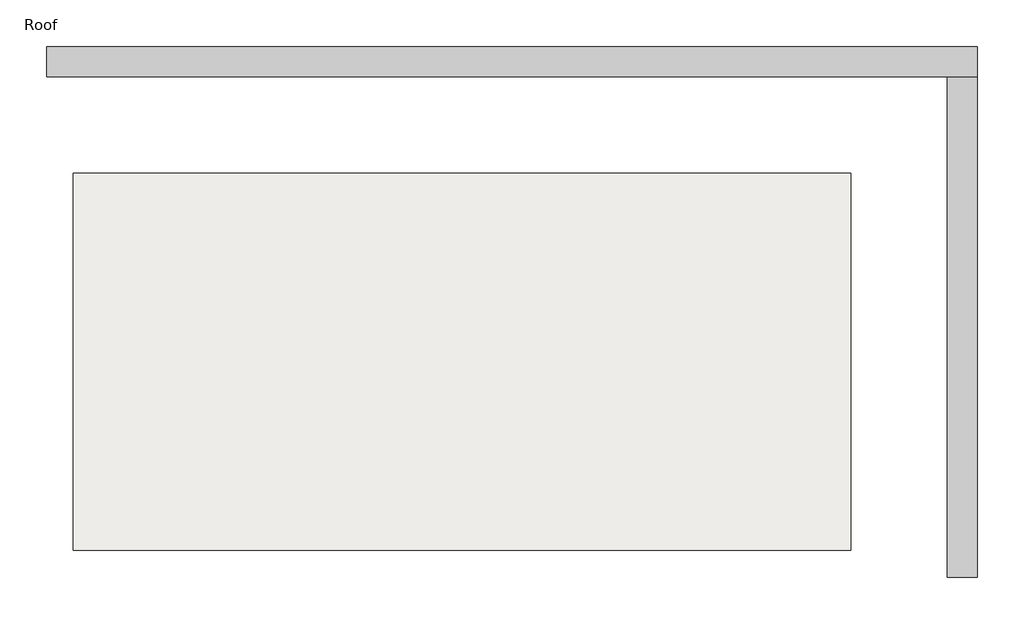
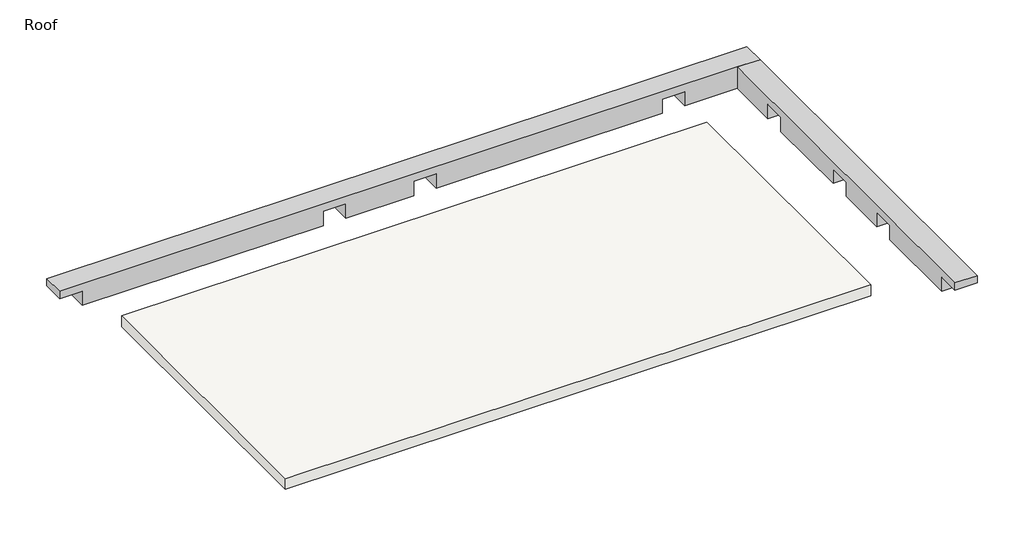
# One storey: 2 beams, 1 roof.
"""IFC4 building model written with IfcOpenShell, lengths in millimetres."""

import ifcopenshell
import ifcopenshell.guid

model = None  # the IFC model being written
_history = None  # IfcOwnerHistory: only IFC2X3 demands one
_inside = {}  # id of a spatial element -> (the spatial element, [elements in it])
_under = {}  # id of a project, library or spatial element -> (it, [spatial elements below it])
_declared = {}  # id of a project -> (the project, [libraries it declares])
_typed = {}  # id of a type object -> (the type object, [elements of that type])
_made_of = {}  # id of a material, layer set ... -> (it, [elements and type objects made of it])


def new_model(schema):
    """Start an empty IFC model of exactly this schema.

    Asked for "IFC4X3", IfcOpenShell would pick the latest addendum, in which some entities
    have other attributes; the version numbers below select the first issue.
    IFC2X3 requires an IfcOwnerHistory on every rooted entity: one is made here for all.
    """
    global model, _history
    if schema == "IFC4X3":
        model = ifcopenshell.file(schema_version=(4, 3, 0, 0))
    else:
        model = ifcopenshell.file(schema=schema)
    _inside.clear()
    _under.clear()
    _declared.clear()
    _typed.clear()
    _made_of.clear()
    _history = None
    if model.schema == "IFC2X3":
        org = make("IfcOrganization", Name="unknown")
        user = make(
            "IfcPersonAndOrganization",
            ThePerson=make("IfcPerson", FamilyName="unknown"),
            TheOrganization=org,
        )
        app = make(
            "IfcApplication",
            ApplicationDeveloper=org,
            Version="unknown",
            ApplicationFullName="unknown",
            ApplicationIdentifier="unknown",
        )
        _history = make(
            "IfcOwnerHistory",
            OwningUser=user,
            OwningApplication=app,
            ChangeAction="ADDED",
            CreationDate=0,
        )
    return model


def make(cls, **values):
    """One entity of the class cls with the attributes given. An attribute that is None is left unset."""
    return model.create_entity(
        cls, **{name: value for name, value in values.items() if value is not None}
    )


def rooted(cls, **values):
    """An entity with a GlobalId (a new one), such as an element, a storey or a relation."""
    return make(cls, GlobalId=ifcopenshell.guid.new(), OwnerHistory=_history, **values)


def si_unit(unit_type, name, prefix=None):
    """IfcSIUnit, for example si_unit("LENGTHUNIT", "METRE", prefix="MILLI")."""
    return make("IfcSIUnit", UnitType=unit_type, Prefix=prefix, Name=name)


def assignment(units):
    """IfcUnitAssignment: the units of a project."""
    return None if units is None else make("IfcUnitAssignment", Units=units)


def point(xyz):
    """IfcCartesianPoint."""
    return None if xyz is None else make("IfcCartesianPoint", Coordinates=xyz)


def direction(xyz):
    """IfcDirection."""
    return None if xyz is None else make("IfcDirection", DirectionRatios=xyz)


def frame(location, z_axis=None, x_axis=None):
    """IfcAxis2Placement3D, a coordinate frame: its origin and axes. An axis left out is left unset."""
    return make(
        "IfcAxis2Placement3D",
        Location=point(location),
        Axis=direction(z_axis),
        RefDirection=direction(x_axis),
    )


def origin():
    """The frame at (0, 0, 0) with its axes left unset."""
    return frame((0.0, 0.0, 0.0))


def place(relative_to, where):
    """IfcLocalPlacement: puts the frame where relative to a parent placement (None: the world)."""
    return make(
        "IfcLocalPlacement", PlacementRelTo=relative_to, RelativePlacement=where
    )


def context(
    kind, dimensions, precision=None, world=None, true_north=None, identifier=None
):
    """IfcGeometricRepresentationContext, for example the 3D "Model" context."""
    return make(
        "IfcGeometricRepresentationContext",
        ContextIdentifier=identifier,
        ContextType=kind,
        CoordinateSpaceDimension=dimensions,
        Precision=precision,
        WorldCoordinateSystem=world,
        TrueNorth=true_north,
    )


def project(units=None, contexts=None):
    """IfcProject with its units and contexts."""
    return rooted(
        "IfcProject",
        Name="project",
        RepresentationContexts=contexts,
        UnitsInContext=assignment(units),
    )


def spatial(cls, under=None, at=None, **own):
    """A site, building, storey or space (cls), placed at a placement, below another one or the project."""
    s = rooted(cls, ObjectPlacement=at, **own)
    if under is not None:
        _under.setdefault(under.id(), (under, []))[1].append(s)
    return s


def polyline(points):
    """IfcPolyline through the points."""
    return make("IfcPolyline", Points=[point(p) for p in points])


def outline(outer, holes=None, kind="AREA"):
    """IfcArbitraryClosedProfileDef: a profile drawn as a closed curve; with holes, ...WithVoids."""
    if holes is None:
        return make("IfcArbitraryClosedProfileDef", ProfileType=kind, OuterCurve=outer)
    return make(
        "IfcArbitraryProfileDefWithVoids",
        ProfileType=kind,
        OuterCurve=outer,
        InnerCurves=holes,
    )


def extrude(swept, where, along, depth):
    """IfcExtrudedAreaSolid: the profile swept, set in the frame where, extruded along a direction by depth."""
    return make(
        "IfcExtrudedAreaSolid",
        SweptArea=swept,
        Position=where,
        ExtrudedDirection=direction(along),
        Depth=depth,
    )


def faces_of(points, faces, orient=None, outer=None):
    """IfcFace entities. A face is a list of loops; a loop is a list of indices into points, from 0.

    orient and outer hold one flag for each loop. By default every Orientation is true, the
    first loop of a face is its IfcFaceOuterBound and the others are IfcFaceBound.
    """
    made = []
    for i, loops in enumerate(faces):
        bounds = []
        for j, loop in enumerate(loops):
            is_outer = j == 0 if outer is None else outer[i][j]
            bounds.append(
                make(
                    "IfcFaceOuterBound" if is_outer else "IfcFaceBound",
                    Bound=make("IfcPolyLoop", Polygon=[points[k] for k in loop]),
                    Orientation=True if orient is None else orient[i][j],
                )
            )
        made.append(make("IfcFace", Bounds=bounds))
    return made


def faceted_brep(points, faces, orient=None, outer=None, voids=None):
    """IfcFacetedBrep: a solid bounded by flat faces; with voids (closed shells), ...WithVoids."""
    shared = [point(p) for p in points]
    hull = make("IfcClosedShell", CfsFaces=faces_of(shared, faces, orient, outer))
    if voids is None:
        return make("IfcFacetedBrep", Outer=hull)
    return make(
        "IfcFacetedBrepWithVoids",
        Outer=hull,
        Voids=[
            make(cls, CfsFaces=faces_of(shared, fs, o, b)) for cls, fs, o, b in voids
        ],
    )


def shape(context_of_items, identifier, shape_type, items):
    """IfcShapeRepresentation: the items that make up one representation, for example the "Body"."""
    return make(
        "IfcShapeRepresentation",
        ContextOfItems=context_of_items,
        RepresentationIdentifier=identifier,
        RepresentationType=shape_type,
        Items=items,
    )


def made_of(thing, what):
    """Note that an element or type object is made of a material, layer set ...; save() writes the relation."""
    if what is not None:
        _made_of.setdefault(what.id(), (what, []))[1].append(thing)
    return thing


def element(
    cls,
    number,
    at=None,
    inside=None,
    cuts=None,
    type_object=None,
    material=None,
    context=None,
    identifier="Body",
    shape_type=None,
    held_by="IfcProductDefinitionShape",
    body=None,
    shapes=None,
    **own,
):
    """One element of the class cls, such as IfcWall. Its Tag is "e" and its number.

    at: its placement. inside: the storey or other place that contains it. cuts: it is an
    opening in that element (IfcRelVoidsElement). A single representation is given by context,
    identifier, shape_type and body (its items); several are given by shapes. held_by: the class
    of the entity that holds the representations. save() writes the other relations.
    """
    e = rooted(cls, Tag="e%d" % number, ObjectPlacement=at, **own)
    if body is not None:
        shapes = [shape(context, identifier, shape_type, body)]
    if shapes is not None:
        e.Representation = make(held_by, Representations=shapes)
    if inside is not None:
        _inside.setdefault(inside.id(), (inside, []))[1].append(e)
    if cuts is not None:
        rooted(
            "IfcRelVoidsElement", RelatingBuildingElement=cuts, RelatedOpeningElement=e
        )
    if type_object is not None:
        _typed.setdefault(type_object.id(), (type_object, []))[1].append(e)
    return made_of(e, material)


def aggregate(whole, parts):
    """IfcRelAggregates: a whole, such as a stair, and the parts it consists of."""
    return rooted("IfcRelAggregates", RelatingObject=whole, RelatedObjects=parts)


def save(model, path):
    """Write the relations noted so far, then the file.

    IfcRelAggregates (storeys below a building ...), IfcRelContainedInSpatialStructure (elements
    in a storey), IfcRelDefinesByType, IfcRelAssociatesMaterial and IfcRelDeclares: one each for
    every whole, place, type object, material and project.
    """
    for whole, parts in _under.values():
        aggregate(whole, parts)
    for where, things in _inside.values():
        rooted(
            "IfcRelContainedInSpatialStructure",
            RelatedElements=things,
            RelatingStructure=where,
        )
    for kind, things in _typed.values():
        rooted("IfcRelDefinesByType", RelatedObjects=things, RelatingType=kind)
    for what, things in _made_of.values():
        rooted("IfcRelAssociatesMaterial", RelatedObjects=things, RelatingMaterial=what)
    for by, libraries in _declared.values():
        rooted("IfcRelDeclares", RelatingContext=by, RelatedDefinitions=libraries)
    model.write(path)


model = new_model("IFC4")

# Units and contexts
model_context = context("Model", 3, world=origin())
ifc_project = project(units=[si_unit("LENGTHUNIT", "METRE", prefix="MILLI")], contexts=[model_context])

# Site, building, storey
site = spatial("IfcSite", under=ifc_project)
building = spatial("IfcBuilding", under=site)
storey = spatial("IfcBuildingStorey", under=building, Name="Roof", Elevation=12192.0)

# Beams
placement = place(None, origin())
element("IfcBeam", 1, ObjectType="Concrete-Rectangular Beam : 18 x 18", at=placement, inside=storey, context=model_context, shape_type="Brep", body=[
    faceted_brep([(-11622.0589563, 11741.6316867, 12192.0), (-11622.0589563, 12198.8316867, 12192.0), (-11622.0589563, 12198.8316867, 12039.6), (-11622.0589563, 11741.6316867, 12039.6), (2093.9410437, 11741.6316867, 12192.0), (2551.1410437, 11741.6316867, 12192.0), (2551.1410437, 12198.8316867, 12192.0), (-11164.8589563, 11741.6316867, 12039.6), (-11164.8589563, 11741.6316867, 11734.8), (-6288.0589563, 11741.6316867, 11734.8), (-6288.0589563, 11741.6316867, 12039.6), (-5830.8589563, 11741.6316867, 12039.6), (-5830.8589563, 11741.6316867, 11734.8), (-4459.2589563, 11741.6316867, 11734.8), (-4459.2589563, 11741.6316867, 12039.6), (-4002.0589563, 11741.6316867, 12039.6), (-4002.0589563, 11741.6316867, 11734.8), (569.9410437, 11741.6316867, 11734.8), (569.9410437, 11741.6316867, 12039.6), (1027.1410437, 11741.6316867, 12039.6), (1027.1410437, 11741.6316867, 11734.8), (2093.9410437, 11741.6316867, 11734.8), (2093.9410437, 11741.6316867, 12039.6), (2551.1410437, 11741.6316867, 12039.6), (1027.1410437, 12198.8316867, 11734.8), (2093.9410437, 12198.8316867, 11734.8), (2551.1410437, 12198.8316867, 12039.6), (2093.9410437, 12198.8316867, 12039.6), (1027.1410437, 12198.8316867, 12039.6), (569.9410437, 12198.8316867, 12039.6), (569.9410437, 12198.8316867, 11734.8), (-4002.0589563, 12198.8316867, 11734.8), (-4002.0589563, 12198.8316867, 12039.6), (-4459.2589563, 12198.8316867, 12039.6), (-4459.2589563, 12198.8316867, 11734.8), (-5830.8589563, 12198.8316867, 11734.8), (-5830.8589563, 12198.8316867, 12039.6), (-6288.0589563, 12198.8316867, 12039.6), (-6288.0589563, 12198.8316867, 11734.8), (-11164.8589563, 12198.8316867, 11734.8), (-11164.8589563, 12198.8316867, 12039.6)], [[[0, 1, 2, 3]], [[1, 0, 4, 5, 6]], [[5, 4, 0, 3, 7, 8, 9, 10, 11, 12, 13, 14, 15, 16, 17, 18, 19, 20, 21, 22, 23]], [[20, 24, 25, 21]], [[1, 6, 26, 27, 25, 24, 28, 29, 30, 31, 32, 33, 34, 35, 36, 37, 38, 39, 40, 2]], [[6, 5, 23, 26]], [[19, 28, 24, 20]], [[29, 18, 17, 30]], [[28, 19, 18, 29]], [[30, 17, 16, 31]], [[27, 22, 21, 25]], [[22, 27, 26, 23]], [[15, 32, 31, 16]], [[33, 14, 13, 34]], [[32, 15, 14, 33]], [[34, 13, 12, 35]], [[11, 36, 35, 12]], [[37, 10, 9, 38]], [[36, 11, 10, 37]], [[38, 9, 8, 39]], [[7, 40, 39, 8]], [[40, 7, 3, 2]]]),
])
element("IfcBeam", 2, ObjectType="Concrete-Rectangular Beam : 18 x 18", at=placement, inside=storey, context=model_context, shape_type="Brep", body=[
    faceted_brep([(2551.1410437, 4121.6316867, 12192.0), (2093.9410437, 4121.6316867, 12192.0), (2093.9410437, 4121.6316867, 12039.6), (2551.1410437, 4121.6316867, 12039.6), (2551.1410437, 11741.6316867, 12192.0), (2093.9410437, 11741.6316867, 12192.0), (2093.9410437, 11741.6316867, 12039.6), (2093.9410437, 11741.6316867, 11734.8), (2093.9410437, 10674.8316867, 11734.8), (2093.9410437, 10674.8316867, 12039.6), (2093.9410437, 10217.6316867, 12039.6), (2093.9410437, 10217.6316867, 11734.8), (2093.9410437, 8388.8316867, 11734.8), (2093.9410437, 8388.8316867, 12039.6), (2093.9410437, 7931.6316867, 12039.6), (2093.9410437, 7931.6316867, 11734.8), (2093.9410437, 6864.8316867, 11734.8), (2093.9410437, 6864.8316867, 12039.6), (2093.9410437, 6407.6316867, 12039.6), (2093.9410437, 6407.6316867, 11734.8), (2093.9410437, 4578.8316867, 11734.8), (2093.9410437, 4578.8316867, 12039.6), (2551.1410437, 6407.6316867, 11734.8), (2551.1410437, 4578.8316867, 11734.8), (2551.1410437, 4578.8316867, 12039.6), (2551.1410437, 6407.6316867, 12039.6), (2551.1410437, 6864.8316867, 12039.6), (2551.1410437, 6864.8316867, 11734.8), (2551.1410437, 7931.6316867, 11734.8), (2551.1410437, 7931.6316867, 12039.6), (2551.1410437, 8388.8316867, 12039.6), (2551.1410437, 8388.8316867, 11734.8), (2551.1410437, 10217.6316867, 11734.8), (2551.1410437, 10217.6316867, 12039.6), (2551.1410437, 10674.8316867, 12039.6), (2551.1410437, 10674.8316867, 11734.8), (2551.1410437, 11741.6316867, 11734.8), (2551.1410437, 11741.6316867, 12039.6)], [[[0, 1, 2, 3]], [[1, 0, 4, 5]], [[5, 6, 7, 8, 9, 10, 11, 12, 13, 14, 15, 16, 17, 18, 19, 20, 21, 2, 1]], [[19, 22, 23, 20]], [[4, 0, 3, 24, 23, 22, 25, 26, 27, 28, 29, 30, 31, 32, 33, 34, 35, 36, 37]], [[5, 4, 37, 36, 7, 6]], [[10, 33, 32, 11]], [[34, 9, 8, 35]], [[33, 10, 9, 34]], [[7, 36, 35, 8]], [[14, 29, 28, 15]], [[30, 13, 12, 31]], [[29, 14, 13, 30]], [[11, 32, 31, 12]], [[18, 25, 22, 19]], [[26, 17, 16, 27]], [[25, 18, 17, 26]], [[15, 28, 27, 16]], [[24, 21, 20, 23]], [[21, 24, 3, 2]]]),
])

# Roof
element("IfcRoof", 3, ObjectType="Generic - 9\"", at=placement, inside=storey, context=model_context, shape_type="SweptSolid", body=[
    extrude(outline(polyline([(-11217.2464563, 10270.0191867), (622.3285437, 10270.0191867), (622.3285437, 4526.4441867), (-11217.2464563, 4526.4441867), (-11217.2464563, 10270.0191867)])), frame((0.0, 0.0, 12192.0), z_axis=(0.0, 0.0, 1.0), x_axis=(1.0, 0.0, 0.0)), (0.0, 0.0, 1.0), 228.6),
])

save(model, "model.ifc")
